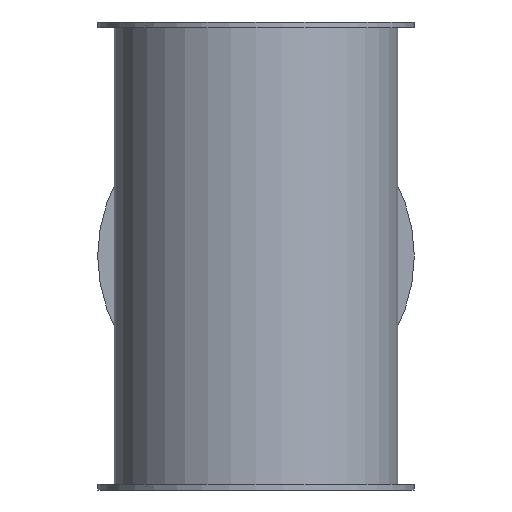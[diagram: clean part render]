
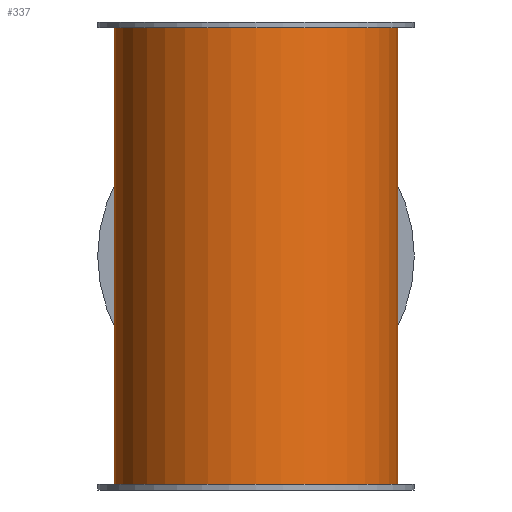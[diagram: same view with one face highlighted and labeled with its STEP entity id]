
A CAD part, front view. The second image highlights one B-rep face of the part: STEP entity #337.
In plain terms, the highlighted cylindrical face has radius 51.5 mm (diameter 103 mm), a full revolution.
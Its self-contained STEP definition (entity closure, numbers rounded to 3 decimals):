
#152=CARTESIAN_POINT('',(51.5,0.,168.0));
#153=VERTEX_POINT('',#152);
#154=CARTESIAN_POINT('',(0.0,0.0,168.0));
#155=DIRECTION('',(0.0,0.0,-1.0));
#156=DIRECTION('',(-1.0,0.0,0.0));
#157=AXIS2_PLACEMENT_3D('',#154,#155,#156);
#158=CIRCLE('',#157,51.5);
#159=EDGE_CURVE('',#153,#153,#158,.T.);
#200=CARTESIAN_POINT('',(-51.5,0.,2.0));
#201=VERTEX_POINT('',#200);
#202=CARTESIAN_POINT('',(0.0,0.0,2.0));
#203=DIRECTION('',(0.0,0.0,1.0));
#204=DIRECTION('',(-1.0,0.0,0.0));
#205=AXIS2_PLACEMENT_3D('',#202,#203,#204);
#206=CIRCLE('',#205,51.5);
#207=EDGE_CURVE('',#201,#201,#206,.T.);
#289=CARTESIAN_POINT('',(-51.5,0.0,85.0));
#290=VERTEX_POINT('',#289);
#291=CARTESIAN_POINT('',(51.5,0.0,85.0));
#292=VERTEX_POINT('',#291);
#293=CARTESIAN_POINT('',(0.0,0.0,85.0));
#294=DIRECTION('',(0.0,-0.707,-0.707));
#295=DIRECTION('',(0.0,0.707,-0.707));
#296=AXIS2_PLACEMENT_3D('',#293,#294,#295);
#297=ELLIPSE('',#296,72.832,51.5);
#298=EDGE_CURVE('',#290,#292,#297,.T.);
#300=CARTESIAN_POINT('',(0.0,0.0,85.0));
#301=DIRECTION('',(0.0,-0.707,0.707));
#302=DIRECTION('',(0.0,-0.707,-0.707));
#303=AXIS2_PLACEMENT_3D('',#300,#301,#302);
#304=ELLIPSE('',#303,72.832,51.5);
#305=EDGE_CURVE('',#292,#290,#304,.T.);
#322=CARTESIAN_POINT('',(0.0,0.0,0.0));
#323=DIRECTION('',(0.0,0.0,1.0));
#324=DIRECTION('',(-1.0,0.0,0.0));
#325=AXIS2_PLACEMENT_3D('',#322,#323,#324);
#326=CYLINDRICAL_SURFACE('',#325,51.5);
#327=ORIENTED_EDGE('',*,*,#159,.T.);
#328=EDGE_LOOP('',(#327));
#329=FACE_OUTER_BOUND('',#328,.T.);
#330=ORIENTED_EDGE('',*,*,#207,.T.);
#331=EDGE_LOOP('',(#330));
#332=FACE_BOUND('',#331,.T.);
#333=ORIENTED_EDGE('',*,*,#305,.T.);
#334=ORIENTED_EDGE('',*,*,#298,.T.);
#335=EDGE_LOOP('',(#333,#334));
#336=FACE_BOUND('',#335,.T.);
#337=ADVANCED_FACE('',(#329,#332,#336),#326,.T.);
